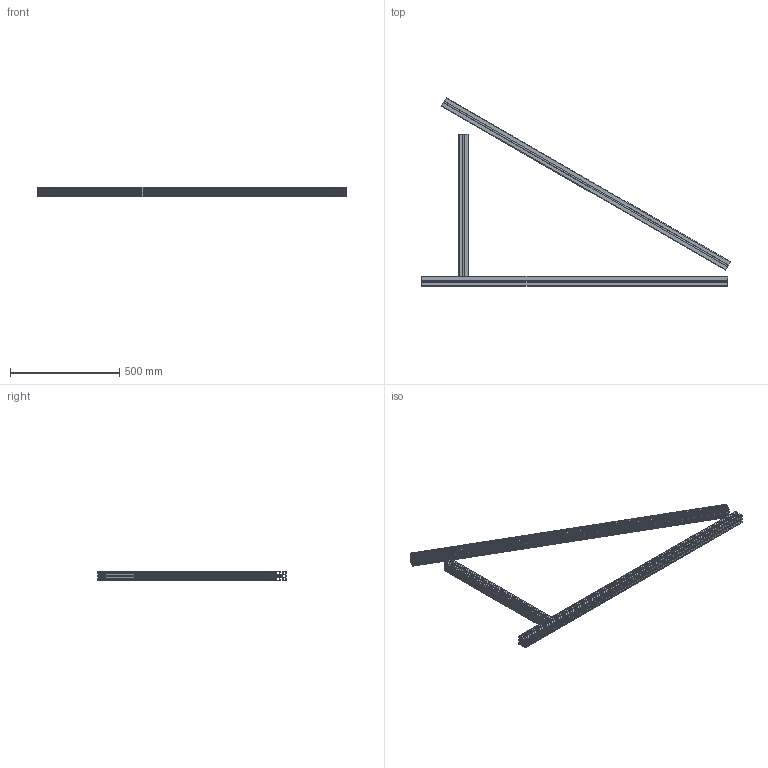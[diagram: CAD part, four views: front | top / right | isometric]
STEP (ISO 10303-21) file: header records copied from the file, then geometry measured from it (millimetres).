
FILE_DESCRIPTION (( 'STEP AP203' ), '1' );
FILE_NAME ('084.106.300.STEP', '2013-01-24T07:19:06', ( 'Alusic' ), ( 'Alusic' ), 'SwSTEP 2.0', 'SolidWorks 2011', '' );
FILE_SCHEMA (( 'CONFIG_CONTROL_DESIGN' ));
Length unit declared in the file: millimetre
Products named in the file (1): 084.106.300
Bounding box: 1412.5 x 862.62 x 45 mm (x, y, z)
Volume: 1992609.8 mm3; surface area: 2004503.4 mm2
Topology: 3 solids, 3 shells, 455 faces, 1338 edges, 888 vertices
Faces by surface type: plane 241, cylinder 214
Entity records: 15370 total; most frequent: CARTESIAN_POINT 2809, ORIENTED_EDGE 2676, DIRECTION 2616, EDGE_CURVE 1338, VECTOR 914, LINE 914, VERTEX_POINT 888, AXIS2_PLACEMENT_3D 851
